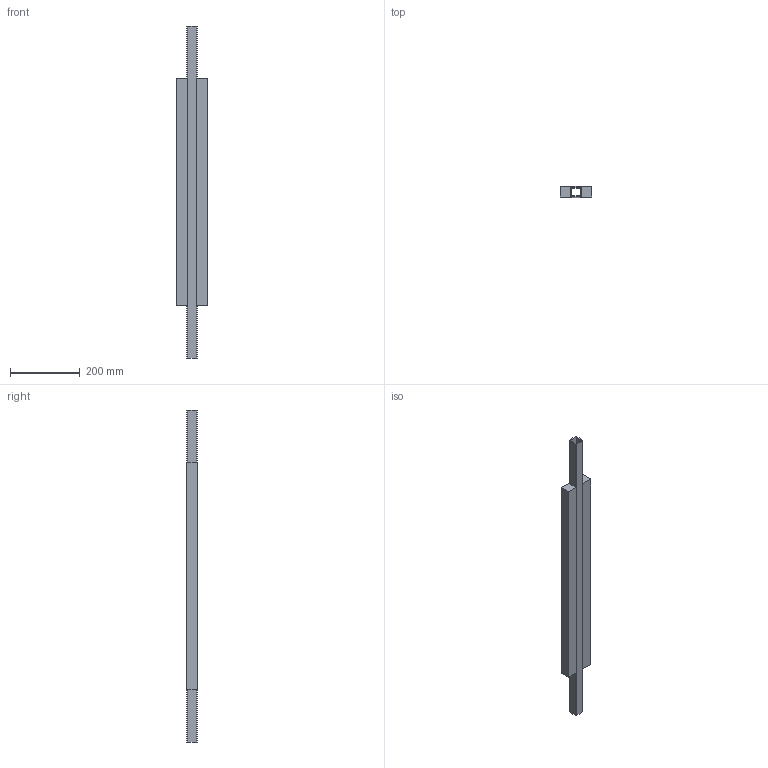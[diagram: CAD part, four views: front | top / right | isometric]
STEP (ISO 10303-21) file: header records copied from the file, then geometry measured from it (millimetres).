
FILE_DESCRIPTION (( 'STEP AP214' ), '1' );
FILE_NAME ('0006639_0_00.step', '2018-07-12T10:06:05', ( '' ), ( '' ), 'SwSTEP 2.0', 'SolidWorks 2018', '' );
FILE_SCHEMA (( 'AUTOMOTIVE_DESIGN' ));
Length unit declared in the file: millimetre
Products named in the file (3): 0006639_0_02_2 lame L=650; 0006639_0_00; 0006639_0_01_2 lame L=650
Assembly tree (2 placements, depth 2):
  0006639_0_00
    0006639_0_01_2 lame L=650
    0006639_0_02_2 lame L=650
Bounding box: 90 x 30 x 950 mm (x, y, z)
Volume: 1475482.3 mm3; surface area: 372807.3 mm2
Topology: 3 solids, 3 shells, 30 faces, 72 edges, 48 vertices
Faces by surface type: plane 22, cylinder 8
Entity records: 1149 total; most frequent: DIRECTION 158, CARTESIAN_POINT 155, ORIENTED_EDGE 144, EDGE_CURVE 72, LINE 56, VECTOR 56, AXIS2_PLACEMENT_3D 51, VERTEX_POINT 48
